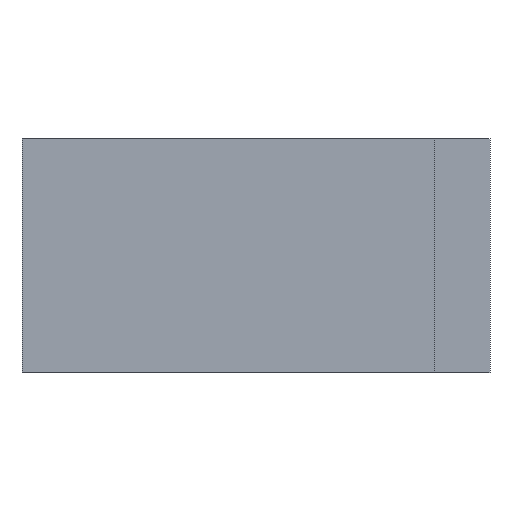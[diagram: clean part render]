
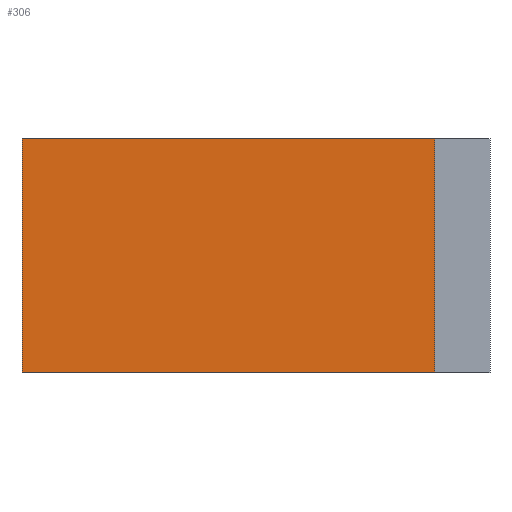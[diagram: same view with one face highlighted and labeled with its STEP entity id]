
A CAD part, left-side view. The second image highlights one B-rep face of the part: STEP entity #306.
In plain terms, the highlighted planar face has unit normal (-1, 0, 0).
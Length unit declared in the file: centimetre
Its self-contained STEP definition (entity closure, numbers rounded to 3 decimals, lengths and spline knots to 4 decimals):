
#116=VERTEX_POINT('',#389);
#117=VERTEX_POINT('',#391);
#125=VERTEX_POINT('',#421);
#126=VERTEX_POINT('',#425);
#136=VECTOR('',#336,1.);
#150=VECTOR('',#360,1.);
#152=VECTOR('',#363,1.);
#153=VECTOR('',#364,1.);
#164=LINE('',#390,#136);
#178=LINE('',#420,#150);
#180=LINE('',#424,#152);
#181=LINE('',#426,#153);
#193=EDGE_CURVE('',#117,#116,#164,.T.);
#208=EDGE_CURVE('',#125,#117,#178,.T.);
#210=EDGE_CURVE('',#126,#116,#180,.T.);
#211=EDGE_CURVE('',#125,#126,#181,.T.);
#255=ORIENTED_EDGE('',*,*,#193,.T.);
#256=ORIENTED_EDGE('',*,*,#210,.F.);
#257=ORIENTED_EDGE('',*,*,#211,.F.);
#258=ORIENTED_EDGE('',*,*,#208,.T.);
#282=EDGE_LOOP('',(#255,#256,#257,#258));
#294=FACE_BOUND('',#282,.T.);
#306=ADVANCED_FACE('',(#294),#438,.T.);
#320=AXIS2_PLACEMENT_3D('',#423,#362,$);
#336=DIRECTION('',(0.,1.,0.));
#360=DIRECTION('',(0.,0.,1.));
#362=DIRECTION('',(-1.,0.,0.));
#363=DIRECTION('',(0.,0.,1.));
#364=DIRECTION('',(0.,1.,0.));
#389=CARTESIAN_POINT('',(0.3175,18.7325,1.905));
#390=CARTESIAN_POINT('',(0.3175,12.0129,1.905));
#391=CARTESIAN_POINT('',(0.3175,12.0129,1.905));
#420=CARTESIAN_POINT('',(0.3175,12.0129,-1.905));
#421=CARTESIAN_POINT('',(0.3175,12.0129,-1.905));
#423=CARTESIAN_POINT('',(0.3175,15.3727,-1.905));
#424=CARTESIAN_POINT('',(0.3175,18.7325,-1.905));
#425=CARTESIAN_POINT('',(0.3175,18.7325,-1.905));
#426=CARTESIAN_POINT('',(0.3175,12.0129,-1.905));
#438=PLANE('',#320);
